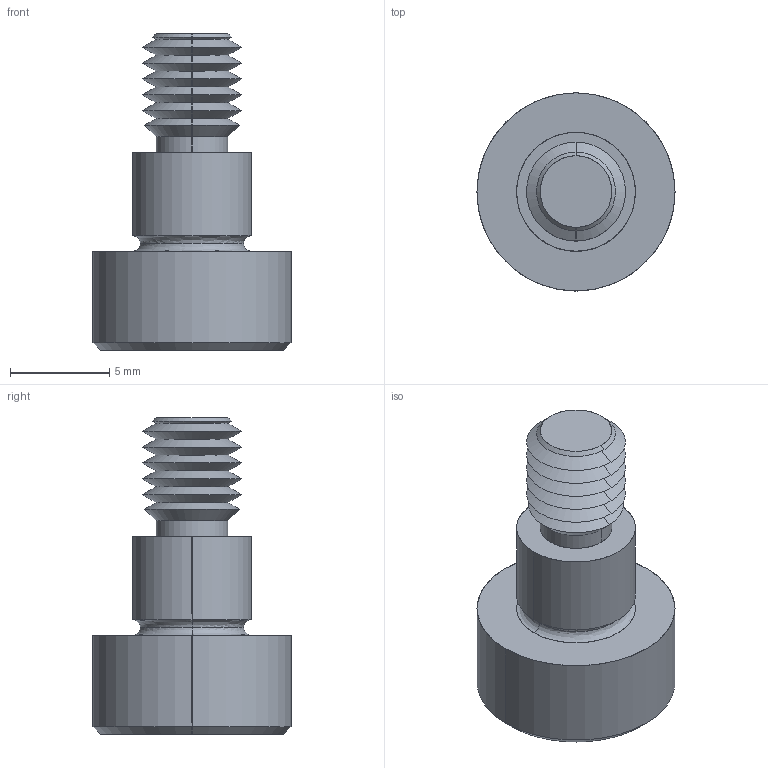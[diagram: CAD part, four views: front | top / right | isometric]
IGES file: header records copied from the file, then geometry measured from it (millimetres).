
Start section: SolidWorks IGES file using analytic representation for surfaces
Global section: file name: C:\Users\IanO\Documents\Temp Folder\GENERAL\SCREW REVISION\P0130_v2\P0130.T5_v2_20220106_IGES\P0130.060-005-T5.igs; native system: SolidWorks 2019; preprocessor: SolidWorks 2019; author: IanO; date: 220106.222053; units: millimetre
Bounding box: 10 x 10 x 16 mm (x, y, z)
Surface area: 581.8 mm2 (no closed solid volume)
Topology: 0 solids, 0 shells, 64 faces, 504 edges, 502 vertices
Faces by surface type: revolution 44, bspline 20
